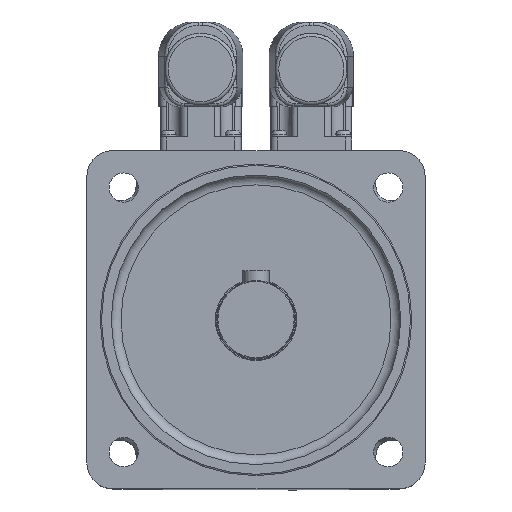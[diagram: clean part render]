
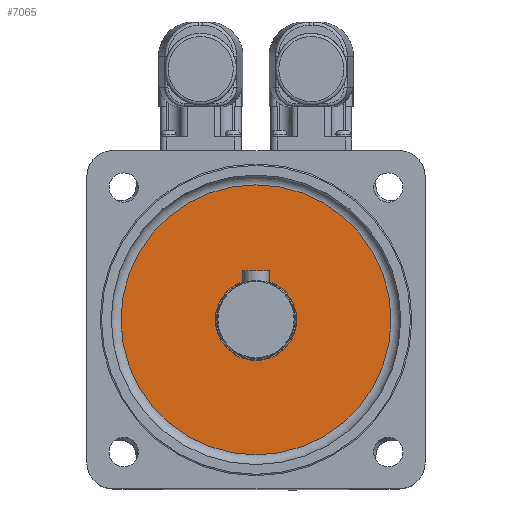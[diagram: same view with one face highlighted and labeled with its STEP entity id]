
A CAD part, top view. The second image highlights one B-rep face of the part: STEP entity #7065.
In plain terms, the highlighted planar face has unit normal (0, 0, 1).
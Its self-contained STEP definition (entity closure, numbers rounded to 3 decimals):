
#7038=CARTESIAN_POINT('',(0.,0.,-118.));
#7039=DIRECTION('',(0.0,0.0,-1.0));
#7040=DIRECTION('',(-1.0,0.0,0.0));
#7041=AXIS2_PLACEMENT_3D('',#7038,#7039,#7040);
#7042=PLANE('',#7041);
#7043=CARTESIAN_POINT('',(41.5,0.,-118.));
#7044=VERTEX_POINT('',#7043);
#7045=CARTESIAN_POINT('',(0.,0.,-118.));
#7046=DIRECTION('',(0.0,0.0,-1.0));
#7047=DIRECTION('',(-1.0,0.0,0.0));
#7048=AXIS2_PLACEMENT_3D('',#7045,#7046,#7047);
#7049=CIRCLE('',#7048,41.5);
#7050=EDGE_CURVE('',#7044,#7044,#7049,.T.);
#7051=ORIENTED_EDGE('',*,*,#7050,.F.);
#7052=EDGE_LOOP('',(#7051));
#7053=FACE_OUTER_BOUND('',#7052,.T.);
#7054=CARTESIAN_POINT('',(0.,12.5,-118.));
#7055=VERTEX_POINT('',#7054);
#7056=CARTESIAN_POINT('',(0.0,0.,-118.));
#7057=DIRECTION('',(0.0,0.0,-1.0));
#7058=DIRECTION('',(0.0,1.0,0.0));
#7059=AXIS2_PLACEMENT_3D('',#7056,#7057,#7058);
#7060=CIRCLE('',#7059,12.5);
#7061=EDGE_CURVE('',#7055,#7055,#7060,.T.);
#7062=ORIENTED_EDGE('',*,*,#7061,.T.);
#7063=EDGE_LOOP('',(#7062));
#7064=FACE_BOUND('',#7063,.T.);
#7065=ADVANCED_FACE('',(#7053,#7064),#7042,.F.);
